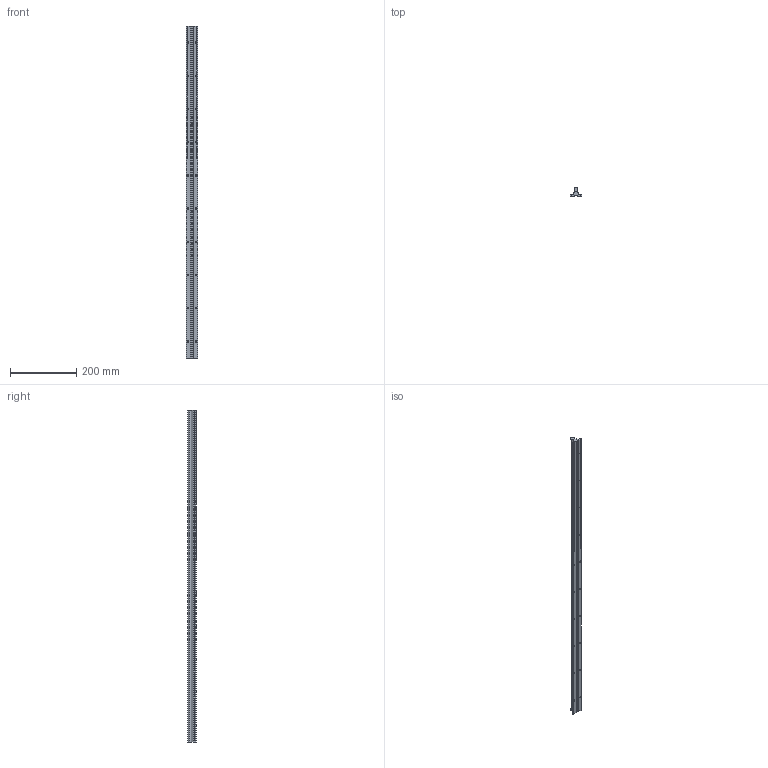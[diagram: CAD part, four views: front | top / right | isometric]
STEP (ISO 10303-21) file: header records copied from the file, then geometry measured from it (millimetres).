
FILE_DESCRIPTION (( 'STEP AP214' ), '1' );
FILE_NAME ('2.6101 Johdeakseli SBR12.STEP', '2024-06-03T12:32:11', ( '' ), ( '' ), 'SwSTEP 2.0', 'SolidWorks 2024', '' );
FILE_SCHEMA (( 'AUTOMOTIVE_DESIGN' ));
Length unit declared in the file: millimetre
Products named in the file (1): 2.6101 Johdeakseli SBR12
Bounding box: 34 x 26.2 x 1000 mm (x, y, z)
Volume: 364464.9 mm3; surface area: 123431.4 mm2
Topology: 1 solids, 1 shells, 134 faces, 424 edges, 264 vertices
Faces by surface type: plane 85, cylinder 49
Entity records: 4765 total; most frequent: CARTESIAN_POINT 1159, ORIENTED_EDGE 848, DIRECTION 680, EDGE_CURVE 424, VERTEX_POINT 264, AXIS2_PLACEMENT_3D 233, LINE 214, VECTOR 214
